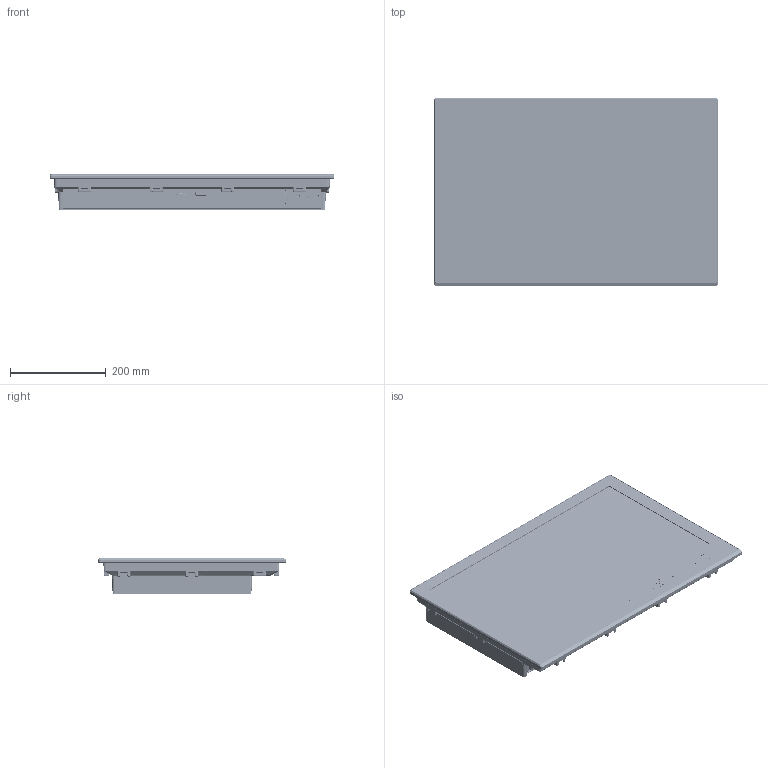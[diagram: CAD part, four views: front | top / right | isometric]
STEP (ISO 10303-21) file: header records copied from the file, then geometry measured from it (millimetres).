
FILE_DESCRIPTION((''),'2;1');
FILE_NAME('3D_MD-224','2014-08-20T',('Justin'),(''),'PRO/ENGINEER BY PARAMETRIC TECHNOLOGY CORPORATION, 2013230','PRO/ENGINEER BY PARAMETRIC TECHNOLOGY CORPORATION, 2013230','');
FILE_SCHEMA(('AUTOMOTIVE_DESIGN { 1 0 10303 214 1 1 1 1 }'));
Products named in the file (1): 3D_MD-224
Bounding box: 595.31 x 393.31 x 75 mm (x, y, z)
Volume: 4196735.3 mm3; surface area: 1969533.7 mm2
Topology: 6 solids, 9 shells, 6806 faces, 16473 edges, 10090 vertices
Faces by surface type: plane 3123, cylinder 1944, bspline 663, torus 516, cone 392, extrusion 134, sphere 32, revolution 2
Entity records: 277547 total; most frequent: CARTESIAN_POINT 88432, ORIENTED_EDGE 32882, DIRECTION 31467, EDGE_CURVE 16441, AXIS2_PLACEMENT_3D 10818, VERTEX_POINT 10089, VECTOR 9829, LINE 9695
